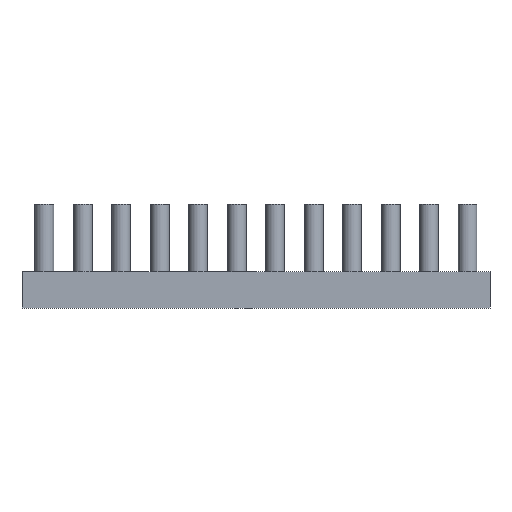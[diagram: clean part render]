
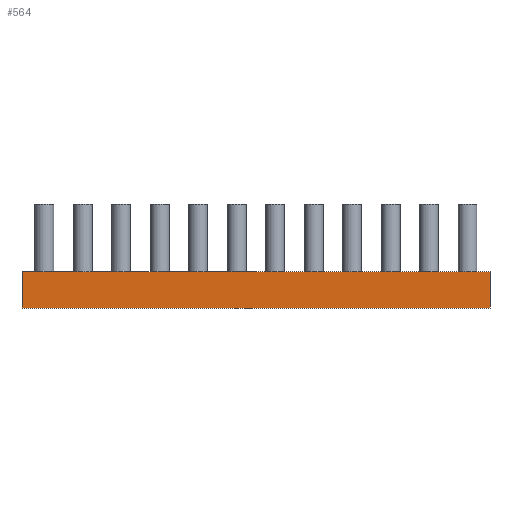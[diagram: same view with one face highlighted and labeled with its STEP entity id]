
A CAD part, left-side view. The second image highlights one B-rep face of the part: STEP entity #564.
In plain terms, the highlighted planar face has unit normal (-1, 0, 0).
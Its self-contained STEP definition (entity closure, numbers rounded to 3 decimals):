
#97=PLANE('',#3790);
#247=FACE_OUTER_BOUND('',#1579,.T.);
#400=LINE('',#5850,#412);
#401=LINE('',#5852,#413);
#402=LINE('',#5854,#414);
#403=LINE('',#5856,#415);
#412=VECTOR('',#4812,1.);
#413=VECTOR('',#4815,1.);
#414=VECTOR('',#4816,1.);
#415=VECTOR('',#4817,1.);
#564=ADVANCED_FACE('',(#247),#97,.T.);
#1579=EDGE_LOOP('',(#2167,#2168,#2169,#2170));
#2167=ORIENTED_EDGE('',*,*,#3062,.F.);
#2168=ORIENTED_EDGE('',*,*,#3061,.F.);
#2169=ORIENTED_EDGE('',*,*,#3063,.T.);
#2170=ORIENTED_EDGE('',*,*,#3064,.T.);
#2763=VERTEX_POINT('',#5847);
#2764=VERTEX_POINT('',#5849);
#2765=VERTEX_POINT('',#5853);
#2766=VERTEX_POINT('',#5855);
#3061=EDGE_CURVE('',#2764,#2763,#400,.T.);
#3062=EDGE_CURVE('',#2763,#2765,#401,.T.);
#3063=EDGE_CURVE('',#2764,#2766,#402,.T.);
#3064=EDGE_CURVE('',#2766,#2765,#403,.T.);
#3790=AXIS2_PLACEMENT_3D('',#5857,#4818,#4819);
#4812=DIRECTION('',(0.,0.,1.));
#4815=DIRECTION('',(0.,-1.,0.));
#4816=DIRECTION('',(0.,-1.,0.));
#4817=DIRECTION('',(0.,0.,1.));
#4818=DIRECTION('',(-1.,0.,0.));
#4819=DIRECTION('',(0.,-1.,0.));
#5847=CARTESIAN_POINT('',(-2.15,42.85,0.));
#5849=CARTESIAN_POINT('',(-2.15,42.85,-3.5));
#5850=CARTESIAN_POINT('',(-2.15,42.85,-3.5));
#5852=CARTESIAN_POINT('',(-2.15,42.85,0.));
#5853=CARTESIAN_POINT('',(-2.15,-2.15,0.));
#5854=CARTESIAN_POINT('',(-2.15,42.85,-3.5));
#5855=CARTESIAN_POINT('',(-2.15,-2.15,-3.5));
#5856=CARTESIAN_POINT('',(-2.15,-2.15,-3.5));
#5857=CARTESIAN_POINT('',(-2.15,42.85,-3.5));
